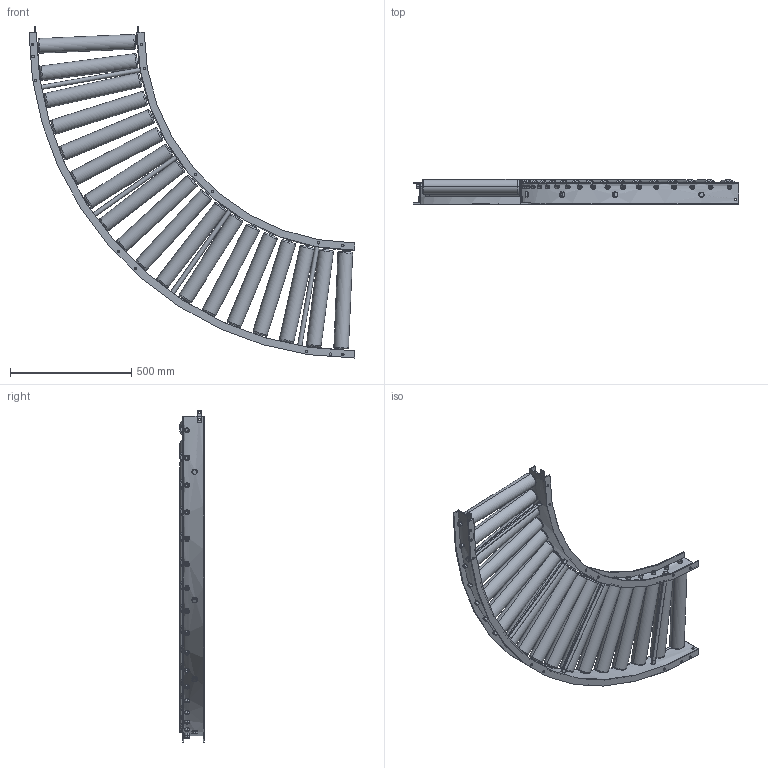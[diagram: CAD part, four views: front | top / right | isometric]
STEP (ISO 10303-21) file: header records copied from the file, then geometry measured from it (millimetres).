
FILE_DESCRIPTION (( 'STEP AP203' ), '1' );
FILE_NAME ('R-6032N_C.step', '2024-03-15T02:35:02', ( '' ), ( '' ), 'SwSTEP 2.0', 'SolidWorks 2023', '' );
FILE_SCHEMA (( 'CONFIG_CONTROL_DESIGN' ));
Length unit declared in the file: millimetre
Products named in the file (1): R-6032N_C
Bounding box: 1345 x 101.75 x 1370.12 mm (x, y, z)
Volume: 22278205.7 mm3; surface area: 3804035.1 mm2
Topology: 60 solids, 60 shells, 876 faces, 2016 edges, 1304 vertices
Faces by surface type: cylinder 422, plane 334, torus 72, cone 48
Entity records: 32771 total; most frequent: CARTESIAN_POINT 12353, DIRECTION 4330, ORIENTED_EDGE 4032, EDGE_CURVE 2016, AXIS2_PLACEMENT_3D 1793, VERTEX_POINT 1304, EDGE_LOOP 1132, CIRCLE 916
